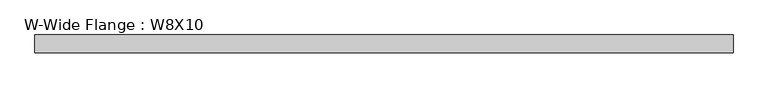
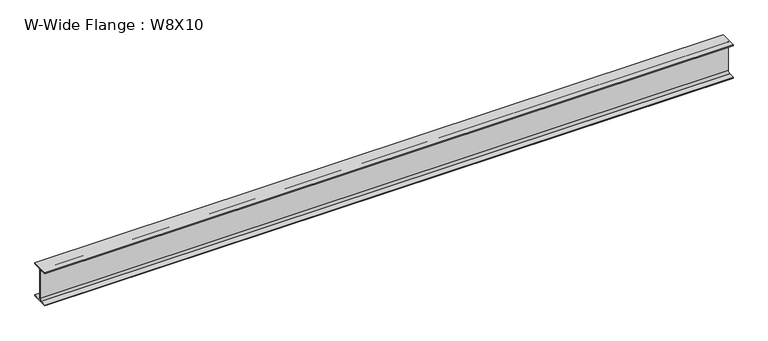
"""IFC4 building model written with IfcOpenShell, lengths in millimetres: beam geometry, W-Wide Flange : W8X10."""

from ifc_helpers import new_model, si_unit, point, frame, frame_2d, origin, place, context, project, spatial, polyline, circle_curve, trimmed, segment, composite_curve, outline, extrude, source, transform, mapped, element, save


def w_wide_flange_w8x10_be9bb2d2(model_context):
    return source(origin(), model_context, "Body", "SweptSolid", [
        extrude(outline(composite_curve([segment(polyline([(50.038, -94.996), (50.038, -100.203), (-50.038, -100.203), (-50.038, -94.996), (-14.4145, -94.996)]), True, "CONTINUOUS"), segment(trimmed(circle_curve(frame_2d((-14.4145, -82.7405)), 12.2555), [point((-14.4145, -94.996))], [point((-2.159, -82.7405))], True, "CARTESIAN"), True, "CONTINUOUS"), segment(polyline([(-2.159, -82.7405), (-2.159, 82.7405)]), True, "CONTINUOUS"), segment(trimmed(circle_curve(frame_2d((-14.4145, 82.7405)), 12.2555), [point((-2.159, 82.7405))], [point((-14.4145, 94.996))], True, "CARTESIAN"), True, "CONTINUOUS"), segment(polyline([(-14.4145, 94.996), (-50.038, 94.996), (-50.038, 100.203), (50.038, 100.203), (50.038, 94.996), (14.4145, 94.996)]), True, "CONTINUOUS"), segment(trimmed(circle_curve(frame_2d((14.4145, 82.7405)), 12.2555), [point((14.4145, 94.996))], [point((2.159, 82.7405))], True, "CARTESIAN"), True, "CONTINUOUS"), segment(polyline([(2.159, 82.7405), (2.159, -82.7405)]), True, "CONTINUOUS"), segment(trimmed(circle_curve(frame_2d((14.4145, -82.7405)), 12.2555), [point((2.159, -82.7405))], [point((14.4145, -94.996))], True, "CARTESIAN"), True, "CONTINUOUS"), segment(polyline([(14.4145, -94.996), (50.038, -94.996)]), True, "CONTINUOUS")], self_intersect=False)), frame((-2026.6421875, 0.0, 0.0), z_axis=(1.0, 0.0, 0.0), x_axis=(0.0, 1.0, 0.0)), (0.0, 0.0, 1.0), 3942.7050781),
    ])


if __name__ == "__main__":
    model = new_model("IFC4")
    model_context = context("Model", 3, world=origin())
    ifc_project = project(units=[si_unit("LENGTHUNIT", "METRE", prefix="MILLI")], contexts=[model_context])
    site = spatial("IfcSite", under=ifc_project)
    building = spatial("IfcBuilding", under=site)
    placement = place(None, origin())
    w_wide_flange_w8x10_shape = w_wide_flange_w8x10_be9bb2d2(model_context)
    element("IfcBeam", 1, ObjectType="W-Wide Flange : W8X10", at=placement, inside=building, context=model_context, shape_type="MappedRepresentation", body=[
        mapped(w_wide_flange_w8x10_shape, transform((0.0, 0.0, 0.0), x_axis=(1.0, 0.0, 0.0), y_axis=(0.0, 1.0, 0.0), z_axis=(0.0, 0.0, 1.0))),
    ])
    save(model, "model.ifc")
